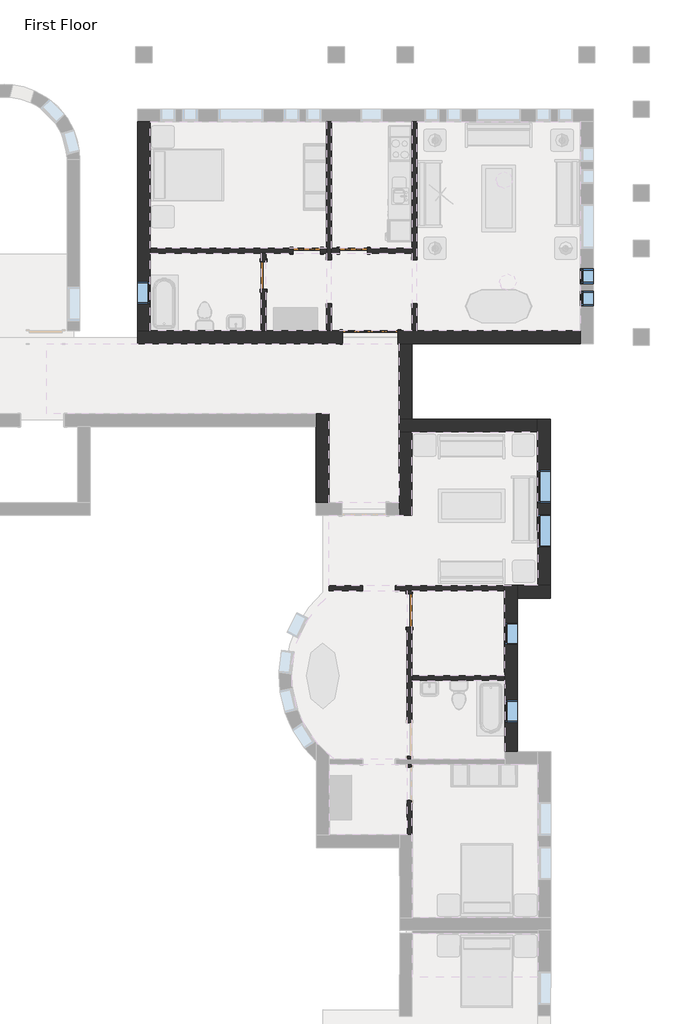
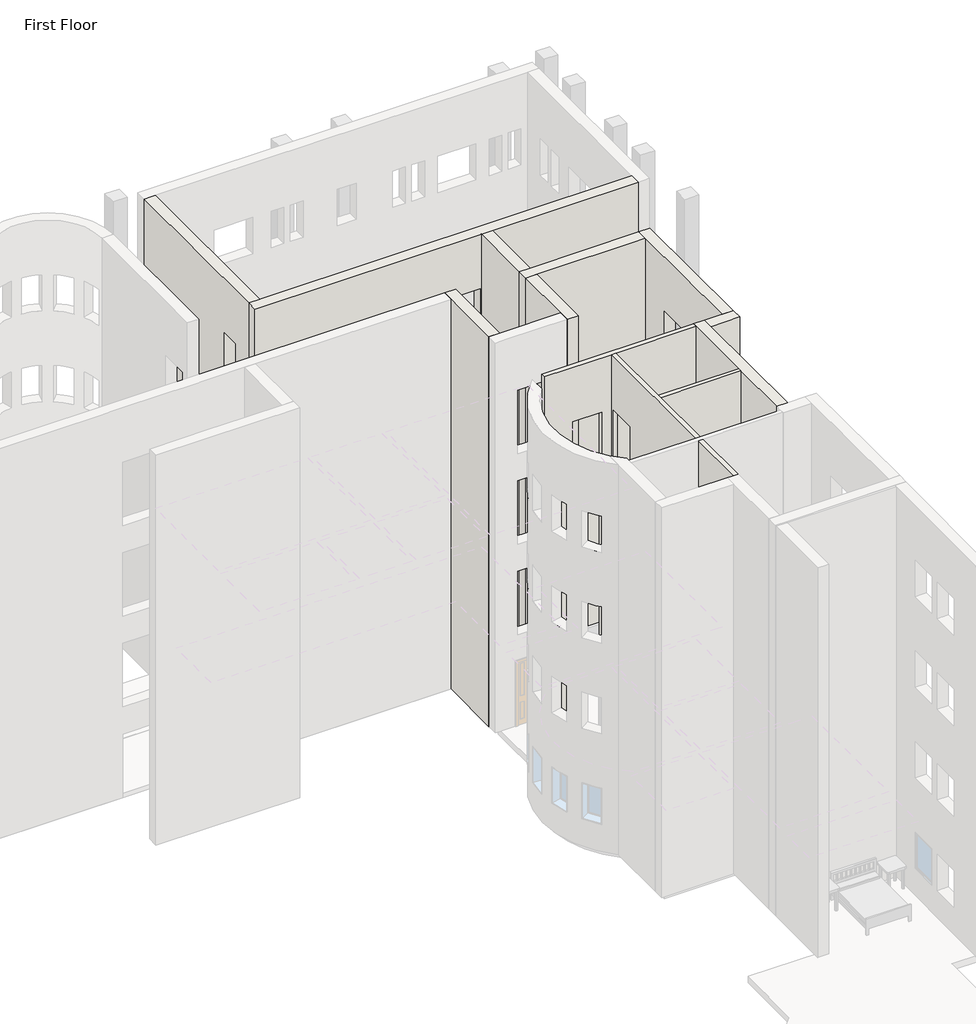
# One storey, part 13 of 22: 16 walls, 7 windows, 5 doors.
"""IFC4 building model written with IfcOpenShell, lengths in millimetres."""

from ifc_helpers import new_model, si_unit, frame, origin, origin_with_axes, place, context, project, spatial, polyline, outline, extrude, faceted_brep, transform, mapped, element, save
from components import m_bifold_4_panel_1525_x_2134mm_1ddae71f, m_single_decorative_2_0762_x_2134mm_0d0af7cb, m_single_decorative_2_0762_x_2134mm_2fe67c8e, m_single_flush_0762_x_2134mm_0d89e411, m_single_flush_0915_x_2134mm_ab9b6334, m_fixed_0406_x_1220mm_85c28f40, m_fixed_0610_x_1220mm_2c28ef1d, m_fixed_0610_x_1220mm_1ea27827, m_fixed_0915_x_1220mm_2a2509e7

model = new_model("IFC4")

# Units and contexts
model_context = context("Model", 3, world=origin())
ifc_project = project(units=[si_unit("LENGTHUNIT", "METRE", prefix="MILLI")], contexts=[model_context])

# Site, building, storey
site = spatial("IfcSite", under=ifc_project)
building = spatial("IfcBuilding", under=site)
storey = spatial("IfcBuildingStorey", under=building, Name="First Floor", Elevation=0.0)

# Doors
placement = place(None, origin())
m_bifold_4_panel_1525_x_2134mm_shape = m_bifold_4_panel_1525_x_2134mm_1ddae71f(model_context)
element("IfcDoor", 1, ObjectType="M_Bifold-4 Panel : 1525 x 2134mm", at=placement, inside=storey, context=model_context, shape_type="MappedRepresentation", body=[
    mapped(m_bifold_4_panel_1525_x_2134mm_shape, transform((-8876.0916203, -3514.8811614, 0.0), x_axis=(1.0, 0.0, 0.0), y_axis=(0.0, 1.0, 0.0), z_axis=(0.0, 0.0, 1.0))),
])
m_single_decorative_2_0762_x_2134mm_shape = m_single_decorative_2_0762_x_2134mm_0d0af7cb(model_context)
element("IfcDoor", 2, ObjectType="M_Single-Decorative 2 : 0762 x 2134mm", at=placement, inside=storey, context=model_context, shape_type="MappedRepresentation", body=[
    mapped(m_single_decorative_2_0762_x_2134mm_shape, transform((-9342.3416203, -1138.1311614, 0.0), x_axis=(-1.0, 0.0, 0.0), y_axis=(0.0, -1.0, 0.0), z_axis=(0.0, 0.0, 1.0))),
])
m_single_decorative_2_0762_x_2134mm_2_shape = m_single_decorative_2_0762_x_2134mm_2fe67c8e(model_context)
element("IfcDoor", 3, ObjectType="M_Single-Decorative 2 : 0762 x 2134mm", at=placement, inside=storey, context=model_context, shape_type="MappedRepresentation", body=[
    mapped(m_single_decorative_2_0762_x_2134mm_2_shape, transform((-10629.0916203, -1138.1311614, 0.0), x_axis=(1.0, 0.0, 0.0), y_axis=(0.0, 1.0, 0.0), z_axis=(0.0, 0.0, 1.0))),
])
m_single_flush_0762_x_2134mm_shape = m_single_flush_0762_x_2134mm_0d89e411(model_context)
element("IfcDoor", 4, ObjectType="M_Single-Flush : 0762 x 2134mm", at=placement, inside=storey, context=model_context, shape_type="MappedRepresentation", body=[
    mapped(m_single_flush_0762_x_2134mm_shape, transform((-11819.5916203, -1815.8811614, 0.0), x_axis=(0.0, 1.0, 0.0), y_axis=(-1.0, 0.0, 0.0), z_axis=(0.0, 0.0, 1.0))),
])
m_single_flush_0915_x_2134mm_shape = m_single_flush_0915_x_2134mm_ab9b6334(model_context)
element("IfcDoor", 5, ObjectType="M_Single-Flush : 0915 x 2134mm", at=placement, inside=storey, context=model_context, shape_type="MappedRepresentation", body=[
    mapped(m_single_flush_0915_x_2134mm_shape, transform((-7803.7915984, -11034.8800064, 0.0), x_axis=(-0.0014474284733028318, 0.9999989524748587, 0.0), y_axis=(-0.9999989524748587, -0.0014474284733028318, 0.0), z_axis=(0.0, 0.0, 1.0))),
])

# Walls
element("IfcWall", 6, ObjectType="Exterior - Brick on Mtl. Stud", at=placement, inside=storey, context=model_context, shape_type="Brep", body=[
    faceted_brep([(-15285.3416203, -3339.8811614, 13107.0), (-14935.3416203, -3339.8811614, 13107.0), (-3093.3416203, -3339.8811614, 13107.0), (-3093.3416203, -3339.8811614, 0.0), (-7597.5916203, -3339.8811614, 0.0), (-7733.0916203, -3339.8811614, 0.0), (-8113.5916203, -3339.8811614, 0.0), (-8113.5916203, -3339.8811614, 2134.0), (-9638.5916203, -3339.8811614, 2134.0), (-9638.5916203, -3339.8811614, 0.0), (-9951.3416203, -3339.8811614, 0.0), (-10086.8416203, -3339.8811614, 0.0), (-11751.8416203, -3339.8811614, 0.0), (-11887.3416203, -3339.8811614, 0.0), (-14935.3416203, -3339.8811614, 0.0), (-15285.3416203, -3339.8811614, 0.0), (-8113.5916203, -3339.8811614, 9144.0), (-8113.5916203, -3339.8811614, 11278.0), (-9638.5916203, -3339.8811614, 11278.0), (-9638.5916203, -3339.8811614, 9144.0), (-8113.5916203, -3339.8811614, 3048.0), (-8113.5916203, -3339.8811614, 5182.0), (-9638.5916203, -3339.8811614, 5182.0), (-9638.5916203, -3339.8811614, 3048.0), (-8113.5916203, -3339.8811614, 6096.0), (-8113.5916203, -3339.8811614, 8230.0), (-9638.5916203, -3339.8811614, 8230.0), (-9638.5916203, -3339.8811614, 6096.0), (-3093.3416203, -3689.8811614, 13107.0), (-15285.3416203, -3689.8811614, 13107.0), (-15285.3416203, -3689.8811614, 0.0), (-9638.5916203, -3689.8811614, 0.0), (-9638.5916203, -3689.8811614, 2134.0), (-8113.5916203, -3689.8811614, 2134.0), (-8113.5916203, -3689.8811614, 0.0), (-3093.3416203, -3689.8811614, 0.0), (-8113.5916203, -3689.8811614, 9144.0), (-9638.5916203, -3689.8811614, 9144.0), (-9638.5916203, -3689.8811614, 11278.0), (-8113.5916203, -3689.8811614, 11278.0), (-8113.5916203, -3689.8811614, 3048.0), (-9638.5916203, -3689.8811614, 3048.0), (-9638.5916203, -3689.8811614, 5182.0), (-8113.5916203, -3689.8811614, 5182.0), (-8113.5916203, -3689.8811614, 6096.0), (-9638.5916203, -3689.8811614, 6096.0), (-9638.5916203, -3689.8811614, 8230.0), (-8113.5916203, -3689.8811614, 8230.0)], [[[0, 1, 2, 3, 4, 5, 6, 7, 8, 9, 10, 11, 12, 13, 14, 15], [16, 17, 18, 19], [20, 21, 22, 23], [24, 25, 26, 27]], [[28, 29, 30, 31, 32, 33, 34, 35], [36, 37, 38, 39], [40, 41, 42, 43], [44, 45, 46, 47]], [[30, 15, 14, 13, 12, 11, 10, 9, 31]], [[3, 35, 34, 6, 5, 4]], [[2, 1, 0, 29, 28]], [[33, 7, 6, 34]], [[7, 33, 32, 8]], [[8, 32, 31, 9]], [[17, 16, 36, 39]], [[18, 17, 39, 38]], [[19, 18, 38, 37]], [[16, 19, 37, 36]], [[21, 20, 40, 43]], [[22, 21, 43, 42]], [[23, 22, 42, 41]], [[20, 23, 41, 40]], [[25, 24, 44, 47]], [[26, 25, 47, 46]], [[27, 26, 46, 45]], [[24, 27, 45, 44]], [[0, 15, 30, 29]], [[3, 2, 28, 35]]]),
])
element("IfcWall", 7, ObjectType="Exterior - Brick on Mtl. Stud", at=placement, inside=storey, context=model_context, shape_type="Brep", body=[
    faceted_brep([(-14935.3416203, -3339.8811614, 0.0), (-14935.3416203, -1205.8811614, 0.0), (-14935.3416203, -1070.3811614, 0.0), (-14935.3416203, 2406.1188386, 0.0), (-14935.3416203, 2406.1188386, 13107.0), (-14935.3416203, -3339.8811614, 13107.0), (-14935.3416203, -1989.8811614, 915.0), (-14935.3416203, -2599.8811614, 915.0), (-14935.3416203, -2599.8811614, 2135.0), (-14935.3416203, -1989.8811614, 2135.0), (-14935.3416203, -1989.8811614, 10059.0), (-14935.3416203, -2599.8811614, 10059.0), (-14935.3416203, -2599.8811614, 11279.0), (-14935.3416203, -1989.8811614, 11279.0), (-14935.3416203, -1989.8811614, 3963.0), (-14935.3416203, -2599.8811614, 3963.0), (-14935.3416203, -2599.8811614, 5183.0), (-14935.3416203, -1989.8811614, 5183.0), (-14935.3416203, -1989.8811614, 7011.0), (-14935.3416203, -2599.8811614, 7011.0), (-14935.3416203, -2599.8811614, 8231.0), (-14935.3416203, -1989.8811614, 8231.0), (-15285.3416203, -3339.8811614, 0.0), (-15285.3416203, -3339.8811614, 13107.0), (-15285.3416203, 2406.1188386, 13107.0), (-15285.3416203, 2406.1188386, 0.0), (-15285.3416203, -1989.8811614, 915.0), (-15285.3416203, -1989.8811614, 2135.0), (-15285.3416203, -2599.8811614, 2135.0), (-15285.3416203, -2599.8811614, 915.0), (-15285.3416203, -1989.8811614, 10059.0), (-15285.3416203, -1989.8811614, 11279.0), (-15285.3416203, -2599.8811614, 11279.0), (-15285.3416203, -2599.8811614, 10059.0), (-15285.3416203, -1989.8811614, 3963.0), (-15285.3416203, -1989.8811614, 5183.0), (-15285.3416203, -2599.8811614, 5183.0), (-15285.3416203, -2599.8811614, 3963.0), (-15285.3416203, -1989.8811614, 7011.0), (-15285.3416203, -1989.8811614, 8231.0), (-15285.3416203, -2599.8811614, 8231.0), (-15285.3416203, -2599.8811614, 7011.0), (-15100.3416203, -3339.8811614, 0.0), (-15100.3416203, 2406.1188386, 0.0)], [[[0, 1, 2, 3, 4, 5], [6, 7, 8, 9], [10, 11, 12, 13], [14, 15, 16, 17], [18, 19, 20, 21]], [[22, 23, 24, 25], [26, 27, 28, 29], [30, 31, 32, 33], [34, 35, 36, 37], [38, 39, 40, 41]], [[5, 4, 24, 23]], [[27, 26, 6, 9]], [[28, 27, 9, 8]], [[29, 28, 8, 7]], [[26, 29, 7, 6]], [[31, 30, 10, 13]], [[32, 31, 13, 12]], [[33, 32, 12, 11]], [[30, 33, 11, 10]], [[35, 34, 14, 17]], [[36, 35, 17, 16]], [[37, 36, 16, 15]], [[34, 37, 15, 14]], [[39, 38, 18, 21]], [[40, 39, 21, 20]], [[41, 40, 20, 19]], [[38, 41, 19, 18]], [[0, 5, 23, 22, 42]], [[4, 3, 43, 25, 24]], [[42, 22, 25, 43]], [[3, 2, 1, 0, 42, 43]]]),
])
element("IfcWall", 8, ObjectType="Exterior - Brick on Mtl. Stud", at=placement, inside=storey, context=model_context, shape_type="Brep", body=[
    faceted_brep([(-8083.0916203, -3689.8811614, 0.0), (-8083.0916203, -5778.2787667, 0.0), (-8083.0916203, -5778.2787667, 13107.0), (-8083.0916203, -3689.8811614, 13107.0), (-7733.0916203, -3689.8811614, 0.0), (-7733.0916203, -3689.8811614, 13107.0), (-7733.0916203, -5777.7721662, 13107.0), (-7733.0916203, -5777.7721662, 0.0), (-7918.0916203, -3689.8811614, 0.0), (-7918.0916203, -5778.0399408, 0.0)], [[[0, 1, 2, 3]], [[4, 5, 6, 7]], [[3, 2, 6, 5]], [[0, 3, 5, 4, 8]], [[8, 4, 7, 9]], [[1, 0, 8, 9]], [[2, 1, 9, 7, 6]]]),
])
element("IfcWall", 9, ObjectType="Exterior - Brick on Mtl. Stud", at=placement, inside=storey, context=model_context, shape_type="Brep", body=[
    faceted_brep([(-10019.0916203, -8067.0833858, 0.0), (-10019.0916203, -5625.8811614, 0.0), (-10019.0916203, -5625.8811614, 13107.0), (-10019.0916203, -8067.0833858, 13107.0), (-10369.0916203, -8067.5899863, 0.0), (-10369.0916203, -8067.5899863, 13107.0), (-10369.0916203, -5975.8811614, 13107.0), (-10369.0916203, -5625.8811614, 13107.0), (-10369.0916203, -5625.8811614, 0.0), (-10369.0916203, -5975.8811614, 0.0)], [[[0, 1, 2, 3]], [[4, 5, 6, 7, 8, 9]], [[1, 0, 4, 9, 8]], [[3, 2, 7, 6, 5]], [[2, 1, 8, 7]], [[0, 3, 5, 4]]]),
])
element("IfcWall", 10, ObjectType="Exterior - Brick on Mtl. Stud", at=placement, inside=storey, context=model_context, shape_type="Brep", body=[
    faceted_brep([(-4827.5685557, -14917.5762036, 0.0), (-4833.6795987, -10695.5806263, 0.0), (-4834.1861987, -10345.5809929, 0.0), (-4834.1861987, -10345.5809929, 13107.0), (-4833.6795987, -10695.5806263, 13107.0), (-4827.5685557, -14917.5762036, 13107.0), (-4829.6194895, -13500.6276879, 915.0), (-4828.7365581, -14110.6270489, 915.0), (-4828.7365581, -14110.6270489, 2135.0), (-4829.6194895, -13500.6276879, 2135.0), (-4832.7077229, -11367.0299229, 915.0), (-4831.8247915, -11977.0292839, 915.0), (-4831.8247915, -11977.0292839, 2135.0), (-4832.7077229, -11367.0299229, 2135.0), (-4832.7077229, -11367.0299229, 10059.0), (-4831.8247915, -11977.0292839, 10059.0), (-4831.8247915, -11977.0292839, 11279.0), (-4832.7077229, -11367.0299229, 11279.0), (-4829.6194895, -13500.6276879, 10059.0), (-4828.7365581, -14110.6270489, 10059.0), (-4828.7365581, -14110.6270489, 11279.0), (-4829.6194895, -13500.6276879, 11279.0), (-4832.7077229, -11367.0299229, 3963.0), (-4831.8247915, -11977.0292839, 3963.0), (-4831.8247915, -11977.0292839, 5183.0), (-4832.7077229, -11367.0299229, 5183.0), (-4829.6194895, -13500.6276879, 3963.0), (-4828.7365581, -14110.6270489, 3963.0), (-4828.7365581, -14110.6270489, 5183.0), (-4829.6194895, -13500.6276879, 5183.0), (-4832.7077229, -11367.0299229, 7011.0), (-4831.8247915, -11977.0292839, 7011.0), (-4831.8247915, -11977.0292839, 8231.0), (-4832.7077229, -11367.0299229, 8231.0), (-4829.6194895, -13500.6276879, 7011.0), (-4828.7365581, -14110.6270489, 7011.0), (-4828.7365581, -14110.6270489, 8231.0), (-4829.6194895, -13500.6276879, 8231.0), (-5177.5681891, -14918.0828036, 0.0), (-5177.5681891, -14918.0828036, 13107.0), (-5180.4031225, -12959.4848553, 13107.0), (-5180.599249, -12823.9849972, 13107.0), (-5183.9792116, -10488.8374433, 13107.0), (-5184.1753382, -10353.3375853, 13107.0), (-5184.185832, -10346.0875929, 13107.0), (-5184.185832, -10346.0875929, 0.0), (-5184.1753382, -10353.3375853, 0.0), (-5183.9792116, -10488.8374433, 0.0), (-5180.599249, -12823.9849972, 0.0), (-5180.4031225, -12959.4848553, 0.0), (-5179.6191228, -13501.1342879, 915.0), (-5179.6191228, -13501.1342879, 2135.0), (-5178.7361915, -14111.1336489, 2135.0), (-5178.7361915, -14111.1336489, 915.0), (-5182.7073562, -11367.5365229, 915.0), (-5182.7073562, -11367.5365229, 2135.0), (-5181.8244249, -11977.5358839, 2135.0), (-5181.8244249, -11977.5358839, 915.0), (-5182.7073562, -11367.5365229, 10059.0), (-5182.7073562, -11367.5365229, 11279.0), (-5181.8244249, -11977.5358839, 11279.0), (-5181.8244249, -11977.5358839, 10059.0), (-5179.6191228, -13501.1342879, 10059.0), (-5179.6191228, -13501.1342879, 11279.0), (-5178.7361915, -14111.1336489, 11279.0), (-5178.7361915, -14111.1336489, 10059.0), (-5182.7073562, -11367.5365229, 3963.0), (-5182.7073562, -11367.5365229, 5183.0), (-5181.8244249, -11977.5358839, 5183.0), (-5181.8244249, -11977.5358839, 3963.0), (-5179.6191228, -13501.1342879, 3963.0), (-5179.6191228, -13501.1342879, 5183.0), (-5178.7361915, -14111.1336489, 5183.0), (-5178.7361915, -14111.1336489, 3963.0), (-5182.7073562, -11367.5365229, 7011.0), (-5182.7073562, -11367.5365229, 8231.0), (-5181.8244249, -11977.5358839, 8231.0), (-5181.8244249, -11977.5358839, 7011.0), (-5179.6191228, -13501.1342879, 7011.0), (-5179.6191228, -13501.1342879, 8231.0), (-5178.7361915, -14111.1336489, 8231.0), (-5178.7361915, -14111.1336489, 7011.0)], [[[0, 1, 2, 3, 4, 5], [6, 7, 8, 9], [10, 11, 12, 13], [14, 15, 16, 17], [18, 19, 20, 21], [22, 23, 24, 25], [26, 27, 28, 29], [30, 31, 32, 33], [34, 35, 36, 37]], [[38, 39, 40, 41, 42, 43, 44, 45, 46, 47, 48, 49], [50, 51, 52, 53], [54, 55, 56, 57], [58, 59, 60, 61], [62, 63, 64, 65], [66, 67, 68, 69], [70, 71, 72, 73], [74, 75, 76, 77], [78, 79, 80, 81]], [[2, 1, 0, 38, 49, 48, 47, 46, 45]], [[5, 4, 3, 44, 43, 42, 41, 40, 39]], [[0, 5, 39, 38]], [[3, 2, 45, 44]], [[51, 50, 6, 9]], [[52, 51, 9, 8]], [[53, 52, 8, 7]], [[50, 53, 7, 6]], [[55, 54, 10, 13]], [[56, 55, 13, 12]], [[57, 56, 12, 11]], [[54, 57, 11, 10]], [[59, 58, 14, 17]], [[60, 59, 17, 16]], [[61, 60, 16, 15]], [[58, 61, 15, 14]], [[63, 62, 18, 21]], [[64, 63, 21, 20]], [[65, 64, 20, 19]], [[62, 65, 19, 18]], [[67, 66, 22, 25]], [[68, 67, 25, 24]], [[69, 68, 24, 23]], [[66, 69, 23, 22]], [[71, 70, 26, 29]], [[72, 71, 29, 28]], [[73, 72, 28, 27]], [[70, 73, 27, 26]], [[75, 74, 30, 33]], [[76, 75, 33, 32]], [[77, 76, 32, 31]], [[74, 77, 31, 30]], [[79, 78, 34, 37]], [[80, 79, 37, 36]], [[81, 80, 36, 35]], [[78, 81, 35, 34]]]),
])
element("IfcWall", 11, ObjectType="Exterior - Brick on Mtl. Stud", at=placement, inside=storey, context=model_context, shape_type="Brep", body=[
    faceted_brep([(-4833.6795987, -10695.5806263, 0.0), (-4104.2803628, -10694.5248719, 0.0), (-3919.2805566, -10694.2570977, 0.0), (-3919.2805566, -10694.2570977, 13107.0), (-4833.6795987, -10695.5806263, 13107.0), (-4834.1861987, -10345.5809929, 0.0), (-4834.1861987, -10345.5809929, 13107.0), (-4269.7867899, -10344.7640643, 13107.0), (-3919.7871565, -10344.2574643, 13107.0), (-3919.7871565, -10344.2574643, 0.0), (-4104.7869627, -10344.5252386, 0.0), (-4269.7867899, -10344.7640643, 0.0), (-4833.947373, -10510.58082, 0.0), (-3919.5483308, -10509.2572915, 0.0), (-4104.548137, -10509.5250657, 0.0)], [[[0, 1, 2, 3, 4]], [[5, 6, 7, 8, 9, 10, 11]], [[4, 3, 8, 7, 6]], [[0, 4, 6, 5, 12]], [[3, 2, 13, 9, 8]], [[10, 9, 13, 14]], [[1, 0, 12, 14]], [[2, 1, 14, 13]], [[12, 5, 11, 10, 14]]]),
])
element("IfcWall", 12, ObjectType="Exterior - Brick on Mtl. Stud", at=placement, inside=storey, context=model_context, shape_type="Brep", body=[
    faceted_brep([(-3919.7871565, -10344.2574643, 0.0), (-3926.1370253, -5957.2620598, 0.0), (-3926.4047995, -5772.2622536, 0.0), (-3926.4047995, -5772.2622536, 13107.0), (-3919.7871565, -10344.2574643, 13107.0), (-3922.6225242, -8385.3595163, 915.0), (-3921.2981271, -9300.3585578, 915.0), (-3921.2981271, -9300.3585578, 2135.0), (-3922.6225242, -8385.3595163, 2135.0), (-3924.387229, -7166.1607934, 915.0), (-3923.0628319, -8081.1598349, 915.0), (-3923.0628319, -8081.1598349, 2135.0), (-3924.387229, -7166.1607934, 2135.0), (-3924.387229, -7166.1607934, 10059.0), (-3923.0628319, -8081.1598349, 10059.0), (-3923.0628319, -8081.1598349, 11279.0), (-3924.387229, -7166.1607934, 11279.0), (-3922.6225242, -8385.3595163, 10059.0), (-3921.2981271, -9300.3585578, 10059.0), (-3921.2981271, -9300.3585578, 11279.0), (-3922.6225242, -8385.3595163, 11279.0), (-3924.387229, -7166.1607934, 3963.0), (-3923.0628319, -8081.1598349, 3963.0), (-3923.0628319, -8081.1598349, 5183.0), (-3924.387229, -7166.1607934, 5183.0), (-3922.6225242, -8385.3595163, 3963.0), (-3921.2981271, -9300.3585578, 3963.0), (-3921.2981271, -9300.3585578, 5183.0), (-3922.6225242, -8385.3595163, 5183.0), (-3924.387229, -7166.1607934, 7011.0), (-3923.0628319, -8081.1598349, 7011.0), (-3923.0628319, -8081.1598349, 8231.0), (-3924.387229, -7166.1607934, 8231.0), (-3922.6225242, -8385.3595163, 7011.0), (-3921.2981271, -9300.3585578, 7011.0), (-3921.2981271, -9300.3585578, 8231.0), (-3922.6225242, -8385.3595163, 8231.0), (-4269.7867899, -10344.7640643, 0.0), (-4269.7867899, -10344.7640643, 13107.0), (-4275.8978329, -6122.7684869, 13107.0), (-4276.4044329, -5772.7688535, 13107.0), (-4276.4044329, -5772.7688535, 0.0), (-4276.1366586, -5957.7686598, 0.0), (-4275.8978329, -6122.7684869, 0.0), (-4272.6221575, -8385.8661163, 915.0), (-4272.6221575, -8385.8661163, 2135.0), (-4271.2977605, -9300.8651578, 2135.0), (-4271.2977605, -9300.8651578, 915.0), (-4274.3868623, -7166.6673934, 915.0), (-4274.3868623, -7166.6673934, 2135.0), (-4273.0624653, -8081.6664349, 2135.0), (-4273.0624653, -8081.6664349, 915.0), (-4274.3868623, -7166.6673934, 10059.0), (-4274.3868623, -7166.6673934, 11279.0), (-4273.0624653, -8081.6664349, 11279.0), (-4273.0624653, -8081.6664349, 10059.0), (-4272.6221575, -8385.8661163, 10059.0), (-4272.6221575, -8385.8661163, 11279.0), (-4271.2977605, -9300.8651578, 11279.0), (-4271.2977605, -9300.8651578, 10059.0), (-4274.3868623, -7166.6673934, 3963.0), (-4274.3868623, -7166.6673934, 5183.0), (-4273.0624653, -8081.6664349, 5183.0), (-4273.0624653, -8081.6664349, 3963.0), (-4272.6221575, -8385.8661163, 3963.0), (-4272.6221575, -8385.8661163, 5183.0), (-4271.2977605, -9300.8651578, 5183.0), (-4271.2977605, -9300.8651578, 3963.0), (-4274.3868623, -7166.6673934, 7011.0), (-4274.3868623, -7166.6673934, 8231.0), (-4273.0624653, -8081.6664349, 8231.0), (-4273.0624653, -8081.6664349, 7011.0), (-4272.6221575, -8385.8661163, 7011.0), (-4272.6221575, -8385.8661163, 8231.0), (-4271.2977605, -9300.8651578, 8231.0), (-4271.2977605, -9300.8651578, 7011.0), (-4104.7869627, -10344.5252386, 0.0), (-4111.4046057, -5772.5300278, 0.0), (-4111.1368315, -5957.5298341, 0.0)], [[[0, 1, 2, 3, 4], [5, 6, 7, 8], [9, 10, 11, 12], [13, 14, 15, 16], [17, 18, 19, 20], [21, 22, 23, 24], [25, 26, 27, 28], [29, 30, 31, 32], [33, 34, 35, 36]], [[37, 38, 39, 40, 41, 42, 43], [44, 45, 46, 47], [48, 49, 50, 51], [52, 53, 54, 55], [56, 57, 58, 59], [60, 61, 62, 63], [64, 65, 66, 67], [68, 69, 70, 71], [72, 73, 74, 75]], [[4, 3, 40, 39, 38]], [[0, 4, 38, 37, 76]], [[3, 2, 77, 41, 40]], [[45, 44, 5, 8]], [[46, 45, 8, 7]], [[47, 46, 7, 6]], [[44, 47, 6, 5]], [[49, 48, 9, 12]], [[50, 49, 12, 11]], [[51, 50, 11, 10]], [[48, 51, 10, 9]], [[42, 41, 77, 78]], [[1, 0, 76, 78]], [[2, 1, 78, 77]], [[53, 52, 13, 16]], [[54, 53, 16, 15]], [[55, 54, 15, 14]], [[52, 55, 14, 13]], [[57, 56, 17, 20]], [[58, 57, 20, 19]], [[59, 58, 19, 18]], [[56, 59, 18, 17]], [[61, 60, 21, 24]], [[62, 61, 24, 23]], [[63, 62, 23, 22]], [[60, 63, 22, 21]], [[65, 64, 25, 28]], [[66, 65, 28, 27]], [[67, 66, 27, 26]], [[64, 67, 26, 25]], [[69, 68, 29, 32]], [[70, 69, 32, 31]], [[71, 70, 31, 30]], [[68, 71, 30, 29]], [[73, 72, 33, 36]], [[74, 73, 36, 35]], [[75, 74, 35, 34]], [[72, 75, 34, 33]], [[76, 37, 43, 42, 78]]]),
])
element("IfcWall", 13, ObjectType="Exterior - Brick on Mtl. Stud", at=placement, inside=storey, context=model_context, shape_type="Brep", body=[
    faceted_brep([(-4276.4044329, -5772.7688535, 0.0), (-7733.0916203, -5777.7721662, 0.0), (-7901.4006356, -5778.0157818, 0.0), (-8083.0916203, -5778.2787667, 0.0), (-8086.4004418, -5778.283556, 0.0), (-8086.4004418, -5778.283556, 13107.0), (-8083.0916203, -5778.2787667, 13107.0), (-7733.0916203, -5777.7721662, 13107.0), (-4276.4044329, -5772.7688535, 13107.0), (-4275.8978329, -6122.7684869, 0.0), (-4275.8978329, -6122.7684869, 13107.0), (-7735.8942085, -6127.7765894, 13107.0), (-8085.8938418, -6128.2831894, 13107.0), (-8085.8938418, -6128.2831894, 0.0), (-7900.8940356, -6128.0154151, 0.0), (-7735.8942085, -6127.7765894, 0.0), (-4276.1366586, -5957.7686598, 0.0), (-8086.1326675, -5963.2833622, 0.0), (-7901.1328613, -5963.015588, 0.0)], [[[0, 1, 2, 3, 4, 5, 6, 7, 8]], [[9, 10, 11, 12, 13, 14, 15]], [[8, 7, 6, 5, 12, 11, 10]], [[0, 8, 10, 9, 16]], [[5, 4, 17, 13, 12]], [[14, 13, 17, 18]], [[2, 1, 0, 16, 18]], [[4, 3, 2, 18, 17]], [[16, 9, 15, 14, 18]]]),
])
element("IfcWall", 14, ObjectType="Exterior - Brick on Mtl. Stud", at=placement, inside=storey, context=model_context, shape_type="Brep", body=[
    faceted_brep([(-8085.8938418, -6128.2831894, 0.0), (-8083.0916203, -8064.2811614, 0.0), (-8082.8238461, -8249.2809676, 0.0), (-8082.5850204, -8414.2807948, 0.0), (-8082.5850204, -8414.2807948, 13107.0), (-8083.0916203, -8064.2811614, 13107.0), (-8085.8938418, -6128.2831894, 13107.0), (-7732.585387, -8413.7741948, 0.0), (-7735.8942085, -6127.7765894, 0.0), (-7735.8942085, -6127.7765894, 13107.0), (-7732.585387, -8413.7741948, 13107.0), (-7900.8940356, -6128.0154151, 0.0), (-7897.8240398, -8249.0131933, 0.0), (-7897.5852142, -8414.0130205, 0.0)], [[[0, 1, 2, 3, 4, 5, 6]], [[7, 8, 9, 10]], [[6, 5, 4, 10, 9]], [[0, 6, 9, 8, 11]], [[2, 1, 0, 11, 12]], [[11, 8, 7, 13, 3, 2, 12]], [[4, 3, 13, 7, 10]]]),
])
element("IfcWall", 15, ObjectType="Interior - 135mm Partition (2-hr)", at=placement, inside=storey, context=model_context, shape_type="Brep", body=[
    faceted_brep([(-7733.0916203, 2406.1188386, 0.0), (-7733.0916203, -1070.3811614, 0.0), (-7733.0916203, -1205.8811614, 0.0), (-7733.0916203, -1380.8811614, 0.0), (-7733.0916203, -1380.8811614, 2134.0), (-7733.0916203, -2600.8811614, 2134.0), (-7733.0916203, -2600.8811614, 0.0), (-7733.0916203, -3339.8811614, 0.0), (-7733.0916203, -3339.8811614, 3048.0), (-7733.0916203, -1205.8811614, 3048.0), (-7733.0916203, -1070.3811614, 3048.0), (-7733.0916203, 2406.1188386, 3048.0), (-7597.5916203, -1380.8811614, 2134.0), (-7597.5916203, -1380.8811614, 0.0), (-7597.5916203, 2406.1188386, 0.0), (-7597.5916203, 2406.1188386, 3048.0), (-7597.5916203, -3339.8811614, 3048.0), (-7597.5916203, -3339.8811614, 0.0), (-7597.5916203, -2600.8811614, 0.0), (-7597.5916203, -2600.8811614, 2134.0)], [[[0, 1, 2, 3, 4, 5, 6, 7, 8, 9, 10, 11]], [[12, 13, 14, 15, 16, 17, 18, 19]], [[18, 17, 7, 6]], [[14, 13, 3, 2, 1, 0]], [[11, 10, 9, 8, 16, 15]], [[6, 5, 19, 18]], [[4, 3, 13, 12]], [[5, 4, 12, 19]], [[8, 7, 17, 16]], [[0, 11, 15, 14]]]),
])
element("IfcWall", 16, ObjectType="Interior - 135mm Partition (2-hr)", at=placement, inside=storey, context=model_context, shape_type="Brep", body=[
    faceted_brep([(-10086.8416203, -2600.8811614, 2134.0), (-10086.8416203, -2600.8811614, 0.0), (-10086.8416203, -3339.8811614, 0.0), (-10086.8416203, -3339.8811614, 3048.0), (-10086.8416203, -1205.8811614, 3048.0), (-10086.8416203, -1070.3811614, 3048.0), (-10086.8416203, 2406.1188386, 3048.0), (-10086.8416203, 2406.1188386, 0.0), (-10086.8416203, -1070.3811614, 0.0), (-10086.8416203, -1205.8811614, 0.0), (-10086.8416203, -1380.8811614, 0.0), (-10086.8416203, -1380.8811614, 2134.0), (-9951.3416203, -3339.8811614, 0.0), (-9951.3416203, -2600.8811614, 0.0), (-9951.3416203, -2600.8811614, 2134.0), (-9951.3416203, -1380.8811614, 2134.0), (-9951.3416203, -1380.8811614, 0.0), (-9951.3416203, -1205.8811614, 0.0), (-9951.3416203, -1070.3811614, 0.0), (-9951.3416203, 2406.1188386, 0.0), (-9951.3416203, 2406.1188386, 3048.0), (-9951.3416203, -1070.3811614, 3048.0), (-9951.3416203, -1205.8811614, 3048.0), (-9951.3416203, -3339.8811614, 3048.0)], [[[0, 1, 2, 3, 4, 5, 6, 7, 8, 9, 10, 11]], [[12, 13, 14, 15, 16, 17, 18, 19, 20, 21, 22, 23]], [[2, 1, 13, 12]], [[10, 9, 8, 7, 19, 18, 17, 16]], [[6, 5, 4, 3, 23, 22, 21, 20]], [[16, 15, 11, 10]], [[14, 13, 1, 0]], [[15, 14, 0, 11]], [[3, 2, 12, 23]], [[7, 6, 20, 19]]]),
])
element("IfcWall", 17, ObjectType="Interior - 135mm Partition (2-hr)", at=placement, inside=storey, context=model_context, shape_type="Brep", body=[
    faceted_brep([(-9723.3416203, -1205.8811614, 0.0), (-9723.3416203, -1205.8811614, 2134.0), (-8961.3416203, -1205.8811614, 2134.0), (-8961.3416203, -1205.8811614, 0.0), (-7733.0916203, -1205.8811614, 0.0), (-7733.0916203, -1205.8811614, 3048.0), (-9951.3416203, -1205.8811614, 3048.0), (-9951.3416203, -1205.8811614, 0.0), (-9723.3416203, -1070.3811614, 2134.0), (-9723.3416203, -1070.3811614, 0.0), (-9951.3416203, -1070.3811614, 0.0), (-9951.3416203, -1070.3811614, 3048.0), (-7733.0916203, -1070.3811614, 3048.0), (-7733.0916203, -1070.3811614, 0.0), (-8961.3416203, -1070.3811614, 0.0), (-8961.3416203, -1070.3811614, 2134.0)], [[[0, 1, 2, 3, 4, 5, 6, 7]], [[8, 9, 10, 11, 12, 13, 14, 15]], [[9, 0, 7, 10]], [[3, 14, 13, 4]], [[5, 12, 11, 6]], [[1, 0, 9, 8]], [[2, 1, 8, 15]], [[3, 2, 15, 14]], [[5, 4, 13, 12]], [[7, 6, 11, 10]]]),
    faceted_brep([(-10248.0916203, -1205.8811614, 2134.0), (-10248.0916203, -1205.8811614, 0.0), (-10086.8416203, -1205.8811614, 0.0), (-10086.8416203, -1205.8811614, 3048.0), (-11751.8416203, -1205.8811614, 3048.0), (-11887.3416203, -1205.8811614, 3048.0), (-14935.3416203, -1205.8811614, 3048.0), (-14935.3416203, -1205.8811614, 0.0), (-11887.3416203, -1205.8811614, 0.0), (-11751.8416203, -1205.8811614, 0.0), (-11010.0916203, -1205.8811614, 0.0), (-11010.0916203, -1205.8811614, 2134.0), (-10248.0916203, -1070.3811614, 0.0), (-10248.0916203, -1070.3811614, 2134.0), (-11010.0916203, -1070.3811614, 2134.0), (-11010.0916203, -1070.3811614, 0.0), (-14935.3416203, -1070.3811614, 0.0), (-14935.3416203, -1070.3811614, 3048.0), (-10086.8416203, -1070.3811614, 3048.0), (-10086.8416203, -1070.3811614, 0.0)], [[[0, 1, 2, 3, 4, 5, 6, 7, 8, 9, 10, 11]], [[12, 13, 14, 15, 16, 17, 18, 19]], [[1, 12, 19, 2]], [[15, 10, 9, 8, 7, 16]], [[17, 6, 5, 4, 3, 18]], [[13, 12, 1, 0]], [[14, 13, 0, 11]], [[15, 14, 11, 10]], [[7, 6, 17, 16]], [[3, 2, 19, 18]]]),
])
element("IfcWall", 18, ObjectType="Interior - 135mm Partition (2-hr)", at=placement, inside=storey, context=model_context, shape_type="SweptSolid", body=[
    extrude(outline(polyline([(-1205.8811614, 0.0), (-1434.8811614, 0.0), (-1434.8811614, 2134.0), (-2196.8811614, 2134.0), (-2196.8811614, 0.0), (-3339.8811614, 0.0), (-3339.8811614, 3048.0), (-1205.8811614, 3048.0), (-1205.8811614, 0.0)])), frame((-11887.3416203, 0.0, 0.0), z_axis=(1.0, 0.0, 0.0), x_axis=(0.0, 1.0, 0.0)), (0.0, 0.0, 1.0), 135.5),
])
element("IfcWall", 19, ObjectType="Interior - 135mm Partition (2-hr)", at=placement, inside=storey, context=model_context, shape_type="Brep", body=[
    faceted_brep([(-9100.4712358, -10359.0061494, 2134.0), (-9100.4712358, -10359.0061494, 0.0), (-10015.770277, -10360.3309807, 0.0), (-10015.770277, -10360.3309807, 13107.0), (-5184.1753382, -10353.3375853, 13107.0), (-5184.1753382, -10353.3375853, 0.0), (-8185.4721943, -10357.6817523, 0.0), (-8185.4721943, -10357.6817523, 2134.0), (-8185.4721943, -10357.6817523, 11278.0), (-9100.4712358, -10359.0061494, 11278.0), (-9100.4712358, -10359.0061494, 9144.0), (-8185.4721943, -10357.6817523, 9144.0), (-8185.4721943, -10357.6817523, 5182.0), (-9100.4712358, -10359.0061494, 5182.0), (-9100.4712358, -10359.0061494, 3048.0), (-8185.4721943, -10357.6817523, 3048.0), (-8185.4721943, -10357.6817523, 8230.0), (-9100.4712358, -10359.0061494, 8230.0), (-9100.4712358, -10359.0061494, 6096.0), (-8185.4721943, -10357.6817523, 6096.0), (-10015.5741504, -10495.8308387, 0.0), (-9100.2751092, -10494.5060075, 0.0), (-9100.2751092, -10494.5060075, 2134.0), (-8185.2760677, -10493.1816104, 2134.0), (-8185.2760677, -10493.1816104, 0.0), (-7872.3263955, -10492.7286377, 0.0), (-7736.8265375, -10492.5325111, 0.0), (-5183.9792116, -10488.8374433, 0.0), (-5183.9792116, -10488.8374433, 13107.0), (-7736.8265375, -10492.5325111, 13107.0), (-7872.3263955, -10492.7286377, 13107.0), (-10015.5741504, -10495.8308387, 13107.0), (-8185.2760677, -10493.1816104, 11278.0), (-8185.2760677, -10493.1816104, 9144.0), (-9100.2751092, -10494.5060075, 9144.0), (-9100.2751092, -10494.5060075, 11278.0), (-8185.2760677, -10493.1816104, 5182.0), (-8185.2760677, -10493.1816104, 3048.0), (-9100.2751092, -10494.5060075, 3048.0), (-9100.2751092, -10494.5060075, 5182.0), (-8185.2760677, -10493.1816104, 8230.0), (-8185.2760677, -10493.1816104, 6096.0), (-9100.2751092, -10494.5060075, 6096.0), (-9100.2751092, -10494.5060075, 8230.0)], [[[0, 1, 2, 3, 4, 5, 6, 7], [8, 9, 10, 11], [12, 13, 14, 15], [16, 17, 18, 19]], [[20, 21, 22, 23, 24, 25, 26, 27, 28, 29, 30, 31], [32, 33, 34, 35], [36, 37, 38, 39], [40, 41, 42, 43]], [[6, 5, 27, 26, 25, 24]], [[2, 1, 21, 20]], [[4, 3, 31, 30, 29, 28]], [[5, 4, 28, 27]], [[3, 2, 20, 31]], [[24, 23, 7, 6]], [[22, 21, 1, 0]], [[23, 22, 0, 7]], [[33, 32, 8, 11]], [[34, 33, 11, 10]], [[35, 34, 10, 9]], [[32, 35, 9, 8]], [[37, 36, 12, 15]], [[38, 37, 15, 14]], [[39, 38, 14, 13]], [[36, 39, 13, 12]], [[41, 40, 16, 19]], [[42, 41, 19, 18]], [[43, 42, 18, 17]], [[40, 43, 17, 16]]]),
])
element("IfcWall", 20, ObjectType="Interior - 135mm Partition (2-hr)", at=placement, inside=storey, context=model_context, shape_type="Brep", body=[
    faceted_brep([(-7727.1066934, -17207.7754767, 13107.0), (-7727.1066934, -17207.7754767, 0.0), (-7728.47777, -16260.526469, 0.0), (-7728.47777, -16260.526469, 2134.0), (-7729.8021671, -15345.5274275, 2134.0), (-7729.8021671, -15345.5274275, 0.0), (-7729.9194088, -15264.5275123, 0.0), (-7729.9194088, -15264.5275123, 13107.0), (-7729.8021671, -15345.5274275, 9144.0), (-7728.47777, -16260.526469, 9144.0), (-7728.47777, -16260.526469, 11278.0), (-7729.8021671, -15345.5274275, 11278.0), (-7729.8021671, -15345.5274275, 3048.0), (-7728.47777, -16260.526469, 3048.0), (-7728.47777, -16260.526469, 5182.0), (-7729.8021671, -15345.5274275, 5182.0), (-7729.8021671, -15345.5274275, 6096.0), (-7728.47777, -16260.526469, 6096.0), (-7728.47777, -16260.526469, 8230.0), (-7729.8021671, -15345.5274275, 8230.0), (-7862.6065515, -17207.9716033, 0.0), (-7862.6065515, -17207.9716033, 13107.0), (-7865.4192668, -15264.7236389, 13107.0), (-7865.4192668, -15264.7236389, 0.0), (-7865.3020251, -15345.723554, 0.0), (-7865.3020251, -15345.723554, 2134.0), (-7863.9776281, -16260.7225955, 2134.0), (-7863.9776281, -16260.7225955, 0.0), (-7863.9776281, -16260.7225955, 9144.0), (-7865.3020251, -15345.723554, 9144.0), (-7865.3020251, -15345.723554, 11278.0), (-7863.9776281, -16260.7225955, 11278.0), (-7863.9776281, -16260.7225955, 3048.0), (-7865.3020251, -15345.723554, 3048.0), (-7865.3020251, -15345.723554, 5182.0), (-7863.9776281, -16260.7225955, 5182.0), (-7863.9776281, -16260.7225955, 6096.0), (-7865.3020251, -15345.723554, 6096.0), (-7865.3020251, -15345.723554, 8230.0), (-7863.9776281, -16260.7225955, 8230.0)], [[[0, 1, 2, 3, 4, 5, 6, 7], [8, 9, 10, 11], [12, 13, 14, 15], [16, 17, 18, 19]], [[20, 21, 22, 23, 24, 25, 26, 27], [28, 29, 30, 31], [32, 33, 34, 35], [36, 37, 38, 39]], [[1, 20, 27, 2]], [[5, 24, 23, 6]], [[21, 0, 7, 22]], [[1, 0, 21, 20]], [[7, 6, 23, 22]], [[4, 25, 24, 5]], [[25, 4, 3, 26]], [[26, 3, 2, 27]], [[29, 28, 9, 8]], [[30, 29, 8, 11]], [[31, 30, 11, 10]], [[28, 31, 10, 9]], [[33, 32, 13, 12]], [[34, 33, 12, 15]], [[35, 34, 15, 14]], [[32, 35, 14, 13]], [[37, 36, 17, 16]], [[38, 37, 16, 19]], [[39, 38, 19, 18]], [[36, 39, 18, 17]]]),
    faceted_brep([(-7736.8265375, -10492.5325111, 0.0), (-7736.8265375, -10492.5325111, 13107.0), (-7733.4465749, -12827.680065, 13107.0), (-7733.2504483, -12963.179923, 13107.0), (-7730.1155353, -15129.0276542, 13107.0), (-7730.1155353, -15129.0276542, 0.0), (-7730.2436328, -15040.527747, 0.0), (-7730.2436328, -15040.527747, 2134.0), (-7731.5680298, -14125.5287054, 2134.0), (-7731.5680298, -14125.5287054, 0.0), (-7733.2504483, -12963.179923, 0.0), (-7733.4465749, -12827.680065, 0.0), (-7735.3794708, -11492.2814638, 0.0), (-7735.3794708, -11492.2814638, 2134.0), (-7736.7038679, -10577.2824223, 2134.0), (-7736.7038679, -10577.2824223, 0.0), (-7736.7038679, -10577.2824223, 9144.0), (-7735.3794708, -11492.2814638, 9144.0), (-7735.3794708, -11492.2814638, 11278.0), (-7736.7038679, -10577.2824223, 11278.0), (-7731.5680298, -14125.5287054, 9144.0), (-7730.2436328, -15040.527747, 9144.0), (-7730.2436328, -15040.527747, 11278.0), (-7731.5680298, -14125.5287054, 11278.0), (-7736.7038679, -10577.2824223, 3048.0), (-7735.3794708, -11492.2814638, 3048.0), (-7735.3794708, -11492.2814638, 5182.0), (-7736.7038679, -10577.2824223, 5182.0), (-7731.5680298, -14125.5287054, 3048.0), (-7730.2436328, -15040.527747, 3048.0), (-7730.2436328, -15040.527747, 5182.0), (-7731.5680298, -14125.5287054, 5182.0), (-7736.7038679, -10577.2824223, 6096.0), (-7735.3794708, -11492.2814638, 6096.0), (-7735.3794708, -11492.2814638, 8230.0), (-7736.7038679, -10577.2824223, 8230.0), (-7731.5680298, -14125.5287054, 6096.0), (-7730.2436328, -15040.527747, 6096.0), (-7730.2436328, -15040.527747, 8230.0), (-7731.5680298, -14125.5287054, 8230.0), (-7872.3263955, -10492.7286377, 13107.0), (-7872.3263955, -10492.7286377, 0.0), (-7872.203726, -10577.4785489, 0.0), (-7872.203726, -10577.4785489, 2134.0), (-7870.8793289, -11492.4775904, 2134.0), (-7870.8793289, -11492.4775904, 0.0), (-7867.0678879, -14125.724832, 0.0), (-7867.0678879, -14125.724832, 2134.0), (-7865.7434908, -15040.7238735, 2134.0), (-7865.7434908, -15040.7238735, 0.0), (-7865.6153934, -15129.2237808, 0.0), (-7865.6153934, -15129.2237808, 13107.0), (-7870.8793289, -11492.4775904, 9144.0), (-7872.203726, -10577.4785489, 9144.0), (-7872.203726, -10577.4785489, 11278.0), (-7870.8793289, -11492.4775904, 11278.0), (-7865.7434908, -15040.7238735, 9144.0), (-7867.0678879, -14125.724832, 9144.0), (-7867.0678879, -14125.724832, 11278.0), (-7865.7434908, -15040.7238735, 11278.0), (-7870.8793289, -11492.4775904, 3048.0), (-7872.203726, -10577.4785489, 3048.0), (-7872.203726, -10577.4785489, 5182.0), (-7870.8793289, -11492.4775904, 5182.0), (-7865.7434908, -15040.7238735, 3048.0), (-7867.0678879, -14125.724832, 3048.0), (-7867.0678879, -14125.724832, 5182.0), (-7865.7434908, -15040.7238735, 5182.0), (-7870.8793289, -11492.4775904, 6096.0), (-7872.203726, -10577.4785489, 6096.0), (-7872.203726, -10577.4785489, 8230.0), (-7870.8793289, -11492.4775904, 8230.0), (-7865.7434908, -15040.7238735, 6096.0), (-7867.0678879, -14125.724832, 6096.0), (-7867.0678879, -14125.724832, 8230.0), (-7865.7434908, -15040.7238735, 8230.0)], [[[0, 1, 2, 3, 4, 5, 6, 7, 8, 9, 10, 11, 12, 13, 14, 15], [16, 17, 18, 19], [20, 21, 22, 23], [24, 25, 26, 27], [28, 29, 30, 31], [32, 33, 34, 35], [36, 37, 38, 39]], [[40, 41, 42, 43, 44, 45, 46, 47, 48, 49, 50, 51], [52, 53, 54, 55], [56, 57, 58, 59], [60, 61, 62, 63], [64, 65, 66, 67], [68, 69, 70, 71], [72, 73, 74, 75]], [[41, 0, 15, 42]], [[49, 6, 5, 50]], [[9, 46, 45, 12, 11, 10]], [[1, 40, 51, 4, 3, 2]], [[1, 0, 41, 40]], [[5, 4, 51, 50]], [[7, 6, 49, 48]], [[8, 7, 48, 47]], [[9, 8, 47, 46]], [[43, 42, 15, 14]], [[44, 43, 14, 13]], [[45, 44, 13, 12]], [[53, 52, 17, 16]], [[54, 53, 16, 19]], [[55, 54, 19, 18]], [[52, 55, 18, 17]], [[21, 20, 57, 56]], [[22, 21, 56, 59]], [[23, 22, 59, 58]], [[20, 23, 58, 57]], [[61, 60, 25, 24]], [[62, 61, 24, 27]], [[63, 62, 27, 26]], [[60, 63, 26, 25]], [[29, 28, 65, 64]], [[30, 29, 64, 67]], [[31, 30, 67, 66]], [[28, 31, 66, 65]], [[69, 68, 33, 32]], [[70, 69, 32, 35]], [[71, 70, 35, 34]], [[68, 71, 34, 33]], [[37, 36, 73, 72]], [[38, 37, 72, 75]], [[39, 38, 75, 74]], [[36, 39, 74, 73]]]),
])
element("IfcWall", 21, ObjectType="Interior - 135mm Partition (2-hr)", at=placement, inside=storey, context=model_context, shape_type="SweptSolid", body=[
    extrude(outline(polyline([(-7733.4465749, -12827.680065), (-5180.599249, -12823.9849972), (-5180.4031225, -12959.4848553), (-7733.2504483, -12963.179923), (-7733.4465749, -12827.680065)])), origin_with_axes(), (0.0, 0.0, 1.0), 13107.0),
])

# Windows
m_fixed_0406_x_1220mm_shape = m_fixed_0406_x_1220mm_85c28f40(model_context)
element("IfcWindow", 22, ObjectType="M_Fixed : 0406 x 1220mm", at=placement, inside=storey, context=model_context, shape_type="MappedRepresentation", body=[
    mapped(m_fixed_0406_x_1220mm_shape, transform((-2905.3416203, -2447.8811614, 0.0), x_axis=(0.0, -1.0, 0.0), y_axis=(1.0, 0.0, 0.0), z_axis=(0.0, 0.0, 1.0))),
])
element("IfcWindow", 23, ObjectType="M_Fixed : 0406 x 1220mm", at=placement, inside=storey, context=model_context, shape_type="MappedRepresentation", body=[
    mapped(m_fixed_0406_x_1220mm_shape, transform((-2905.3416203, -1837.8811614, 0.0), x_axis=(0.0, -1.0, 0.0), y_axis=(1.0, 0.0, 0.0), z_axis=(0.0, 0.0, 1.0))),
])
m_fixed_0610_x_1220mm_shape = m_fixed_0610_x_1220mm_2c28ef1d(model_context)
element("IfcWindow", 24, ObjectType="M_Fixed : 0610 x 1220mm", at=placement, inside=storey, context=model_context, shape_type="MappedRepresentation", body=[
    mapped(m_fixed_0610_x_1220mm_shape, transform((-15123.3416203, -2294.8811614, 0.0), x_axis=(0.0, -1.0, 0.0), y_axis=(1.0, 0.0, 0.0), z_axis=(0.0, 0.0, 1.0))),
])
m_fixed_0610_x_1220mm_2_shape = m_fixed_0610_x_1220mm_1ea27827(model_context)
element("IfcWindow", 25, ObjectType="M_Fixed : 0610 x 1220mm", at=placement, inside=storey, context=model_context, shape_type="MappedRepresentation", body=[
    mapped(m_fixed_0610_x_1220mm_2_shape, transform((-4991.1778541, -13805.8618518, 0.0), x_axis=(0.0014474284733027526, -0.9999989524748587, 0.0), y_axis=(0.9999989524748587, 0.0014474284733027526, 0.0), z_axis=(0.0, 0.0, 1.0))),
])
element("IfcWindow", 26, ObjectType="M_Fixed : 0610 x 1220mm", at=placement, inside=storey, context=model_context, shape_type="MappedRepresentation", body=[
    mapped(m_fixed_0610_x_1220mm_2_shape, transform((-4994.2660875, -11672.2640868, 0.0), x_axis=(0.0014474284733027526, -0.9999989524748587, 0.0), y_axis=(0.9999989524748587, 0.0014474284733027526, 0.0), z_axis=(0.0, 0.0, 1.0))),
])
m_fixed_0915_x_1220mm_shape = m_fixed_0915_x_1220mm_2a2509e7(model_context)
element("IfcWindow", 27, ObjectType="M_Fixed : 0915 x 1220mm", at=placement, inside=storey, context=model_context, shape_type="MappedRepresentation", body=[
    mapped(m_fixed_0915_x_1220mm_shape, transform((-4083.960156, -8843.0935205, 0.0), x_axis=(0.0014474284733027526, -0.9999989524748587, 0.0), y_axis=(0.9999989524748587, 0.0014474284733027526, 0.0), z_axis=(0.0, 0.0, 1.0))),
])
element("IfcWindow", 28, ObjectType="M_Fixed : 0915 x 1220mm", at=placement, inside=storey, context=model_context, shape_type="MappedRepresentation", body=[
    mapped(m_fixed_0915_x_1220mm_shape, transform((-4085.7248607, -7623.8947976, 0.0), x_axis=(0.0014474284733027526, -0.9999989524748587, 0.0), y_axis=(0.9999989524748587, 0.0014474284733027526, 0.0), z_axis=(0.0, 0.0, 1.0))),
])

save(model, "model.ifc")
